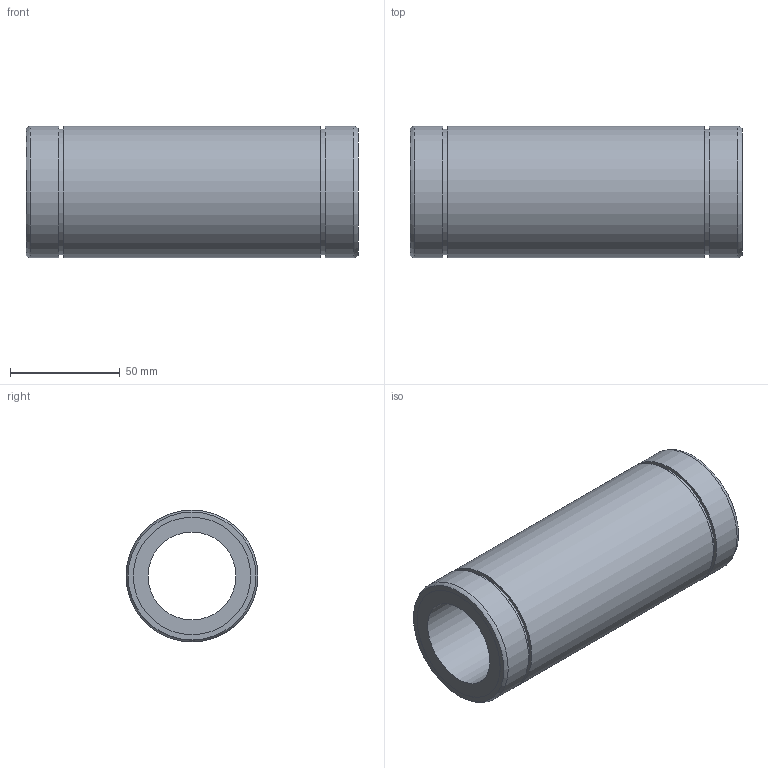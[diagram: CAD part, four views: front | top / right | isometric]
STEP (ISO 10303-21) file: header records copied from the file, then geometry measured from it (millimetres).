
FILE_DESCRIPTION((''),'2;1');
FILE_NAME('D:\製品 (図面)\カタログ用3D\リニアベアリング関連\STEP形式\LD\LD40.stp','2010-06-02T17:42:10',('Tsuchiya'),(''),'Autodesk Inventor 10','Autodesk Inventor 10','');
FILE_SCHEMA(('AUTOMOTIVE_DESIGN { 1 0 10303 214 1 1 1 1 }'));
Length unit declared in the file: millimetre
Products named in the file (1): LD40
Bounding box: 151 x 60 x 60 mm (x, y, z)
Volume: 235568.1 mm3; surface area: 51383.8 mm2
Topology: 1 solids, 1 shells, 18 faces, 28 edges, 18 vertices
Faces by surface type: plane 8, cylinder 8, torus 2
Full cylindrical faces by diameter (mm): 40 x1, 53.4 x2, 57 x2, 60 x3
Entity records: 391 total; most frequent: DIRECTION 74, CARTESIAN_POINT 55, AXIS2_PLACEMENT_3D 37, ORIENTED_EDGE 36, EDGE_LOOP 36, VERTEX_POINT 18, CIRCLE 18, EDGE_CURVE 18
